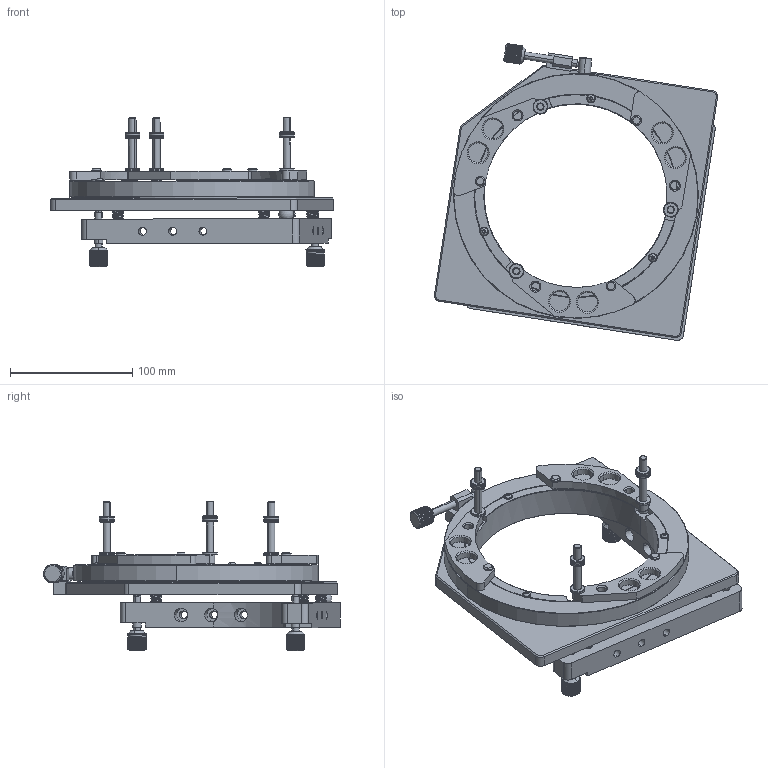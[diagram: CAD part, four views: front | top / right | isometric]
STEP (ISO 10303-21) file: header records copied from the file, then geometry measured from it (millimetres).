
FILE_DESCRIPTION((''),'2;1');
FILE_NAME('5AM-150_3D.stp','2012-04-23T10:09:14',(''),(''),'Mechanical Desktop 2011','Mechanical Desktop 2011',', , ');
FILE_SCHEMA(('CONFIG_CONTROL_DESIGN'));
Length unit declared in the file: millimetre
Products named in the file (1): Product
Bounding box: 231.34 x 242.44 x 122.34 mm (x, y, z)
Volume: 626840.6 mm3; surface area: 144571.9 mm2
Topology: 1 solids, 9 shells, 1628 faces, 3434 edges, 1852 vertices
Faces by surface type: plane 1288, cylinder 137, cone 125, bspline 60, torus 12, sphere 6
Entity records: 48778 total; most frequent: CARTESIAN_POINT 13738, DIRECTION 7852, ORIENTED_EDGE 6860, EDGE_CURVE 3430, AXIS2_PLACEMENT_3D 2952, VECTOR 1948, LINE 1948, VERTEX_POINT 1852
